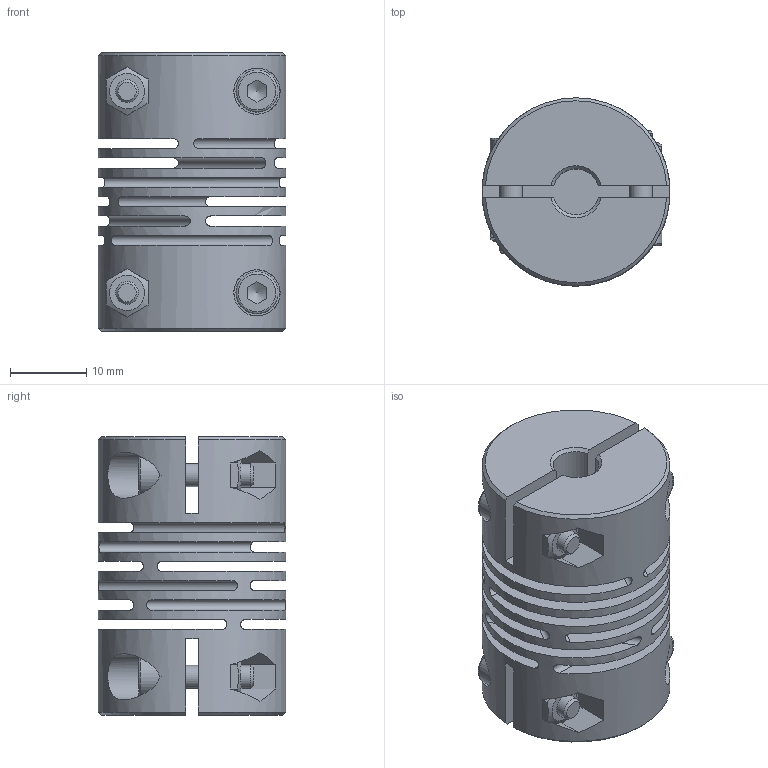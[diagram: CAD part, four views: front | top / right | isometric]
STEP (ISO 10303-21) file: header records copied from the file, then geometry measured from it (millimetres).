
FILE_DESCRIPTION((''),'2;1');
FILE_NAME('H:\Apps\CAD\FILE DRAWINGS\Product Development\Customer Requested Models\637.25.stp','2012-10-22T09:23:22',('Tom.Clinch'),(''),'Autodesk Inventor 2013','Autodesk Inventor 2013','');
FILE_SCHEMA(('AUTOMOTIVE_DESIGN { 1 0 10303 214 1 1 1 1 }'));
Length unit declared in the file: millimetre
Products named in the file (1): Part1
Bounding box: 24.6 x 24.6 x 36.4 mm (x, y, z)
Volume: 12216.6 mm3; surface area: 10923.7 mm2
Topology: 1 solids, 5 shells, 219 faces, 535 edges, 352 vertices
Faces by surface type: plane 146, cylinder 41, cone 24, torus 8
Full cylindrical faces by diameter (mm): 3 x8, 3.3 x8, 5.5 x4, 6.05 x4, 24.6 x1
Entity records: 6601 total; most frequent: CARTESIAN_POINT 1764, DIRECTION 912, ORIENTED_EDGE 904, EDGE_CURVE 452, AXIS2_PLACEMENT_3D 364, VERTEX_POINT 324, EDGE_LOOP 316, STYLED_ITEM 220
